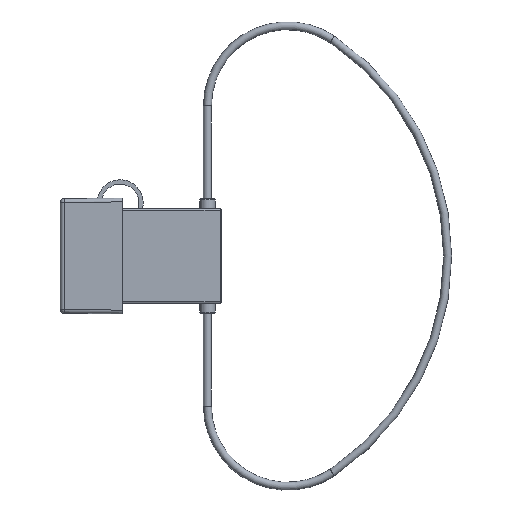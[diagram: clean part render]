
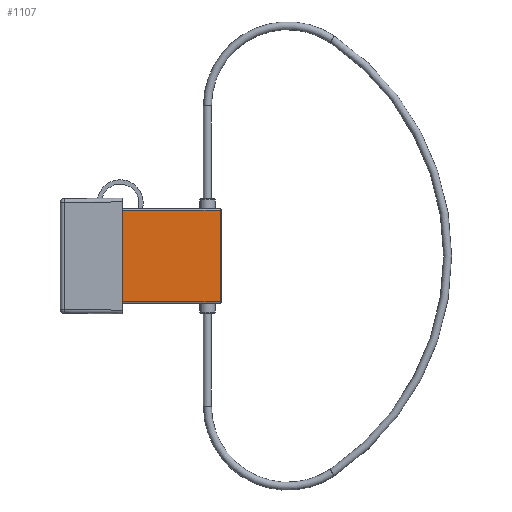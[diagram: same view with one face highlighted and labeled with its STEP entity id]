
A CAD part, left-side view. The second image highlights one B-rep face of the part: STEP entity #1107.
In plain terms, the highlighted planar face has unit normal (-1, 0, 0).
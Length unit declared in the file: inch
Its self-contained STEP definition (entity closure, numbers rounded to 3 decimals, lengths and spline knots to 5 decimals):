
#103=FACE_OUTER_BOUND('',#172,.T.);
#172=EDGE_LOOP('',(#847,#848,#849,#850));
#300=LINE('',#1732,#381);
#338=LINE('',#1847,#419);
#339=LINE('',#1849,#420);
#340=LINE('',#1850,#421);
#381=VECTOR('',#1382,0.3937);
#419=VECTOR('',#1504,0.3937);
#420=VECTOR('',#1505,0.3937);
#421=VECTOR('',#1506,0.3937);
#443=VERTEX_POINT('',#1676);
#444=VERTEX_POINT('',#1677);
#493=VERTEX_POINT('',#1846);
#494=VERTEX_POINT('',#1848);
#564=EDGE_CURVE('',#443,#444,#300,.T.);
#620=EDGE_CURVE('',#493,#444,#338,.T.);
#621=EDGE_CURVE('',#494,#493,#339,.T.);
#622=EDGE_CURVE('',#443,#494,#340,.T.);
#847=ORIENTED_EDGE('',*,*,#564,.T.);
#848=ORIENTED_EDGE('',*,*,#620,.F.);
#849=ORIENTED_EDGE('',*,*,#621,.F.);
#850=ORIENTED_EDGE('',*,*,#622,.F.);
#995=PLANE('',#1227);
#1107=ADVANCED_FACE('',(#103),#995,.T.);
#1227=AXIS2_PLACEMENT_3D('',#1845,#1502,#1503);
#1382=DIRECTION('',(0.,0.,-1.));
#1502=DIRECTION('center_axis',(-1.,0.,0.));
#1503=DIRECTION('ref_axis',(0.,0.,1.));
#1504=DIRECTION('',(0.,1.,0.));
#1505=DIRECTION('',(0.,0.,-1.));
#1506=DIRECTION('',(0.,-1.,0.));
#1676=CARTESIAN_POINT('',(-0.36,1.6,0.74));
#1677=CARTESIAN_POINT('',(-0.36,1.6,-0.74));
#1732=CARTESIAN_POINT('',(-0.36,1.6,-0.38));
#1845=CARTESIAN_POINT('Origin',(-0.36,0.,-0.76));
#1846=CARTESIAN_POINT('',(-0.36,0.02,-0.74));
#1847=CARTESIAN_POINT('',(-0.36,0.,-0.74));
#1848=CARTESIAN_POINT('',(-0.36,0.02,0.74));
#1849=CARTESIAN_POINT('',(-0.36,0.02,-0.38));
#1850=CARTESIAN_POINT('',(-0.36,0.,0.74));
